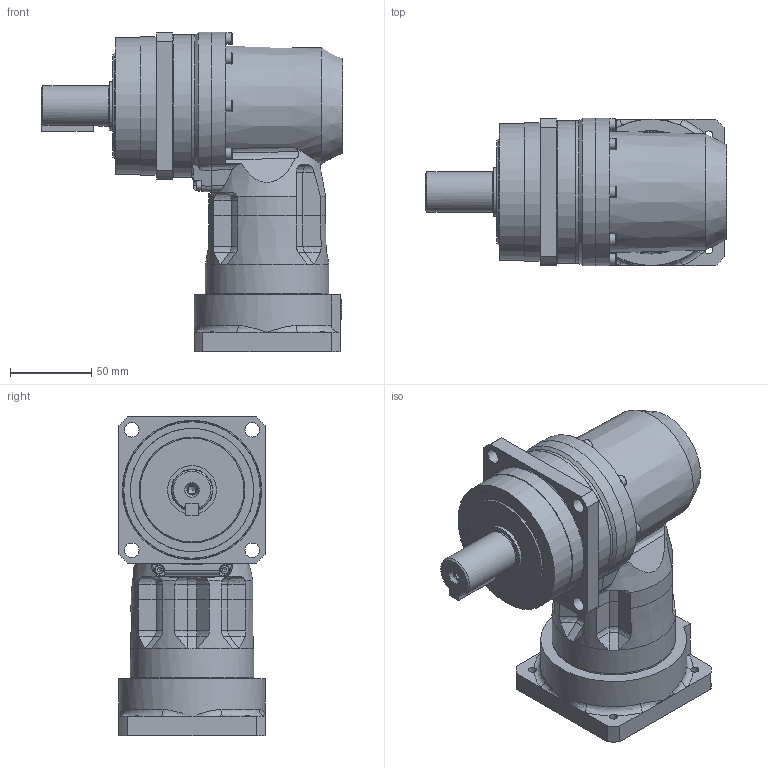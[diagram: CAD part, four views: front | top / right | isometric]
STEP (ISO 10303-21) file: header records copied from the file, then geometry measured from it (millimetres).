
FILE_DESCRIPTION(/* description */ ('ANFX-PK120W-2-0V'),/* implementation_level */ '2;1');
FILE_NAME(/* name */ 'C:\Users\ADMINI~1\AppData\Local\Temp\MM582199_ANFX-PK120W-2-0V.stp',/* time_stamp */ '2018-07-11T08:19:35+02:00',/* author */ ('Max'),/* organization */ (''),/* preprocessor_version */ 'ST-DEVELOPER v17',/* originating_system */ 'Autodesk Inventor 2018',/* authorisation */ '');
FILE_SCHEMA (('AUTOMOTIVE_DESIGN { 1 0 10303 214 3 1 1 }'));
Length unit declared in the file: millimetre
Products named in the file (27): MM581710; MMBG0004105; MMCM057LG; MMAF787LG; M204639; M204639-1; M204639-2; M204639-3; M204639-4; MMAP6499G; 202471; M530A30508---G; 211458; 205792; 200409; MMBG0004078; MMCL445LG; MMCM226LG; MAX4840G; MAW8381G; M202625; MMBG0004116; MMAF790LG; 203366; MMCH633LG; MAW8386G; 200458
Assembly tree (68 placements, depth 4):
  MM581710
    MMBG0004105
      MMCM057LG
      MMAF787LG
      M204639
        M204639-1
        M204639-2
        M204639-3  x2
        M204639-4  x12
      MMAP6499G
      202471
      M530A30508---G
      211458  x2
      205792  x8
      200409  x7
    MMBG0004078
      MMCL445LG
      MMCM226LG
      MAX4840G
      MAW8381G
      M202625
    MMBG0004116
      MMAF790LG
      203366  x10
    MMCH633LG
    MAW8386G
    200458  x8
Bounding box: 185.5 x 90.93 x 196.54 mm (x, y, z)
Volume: 747259.9 mm3; surface area: 263678.5 mm2
Topology: 106 solids, 106 shells, 1178 faces, 3258 edges, 2276 vertices
Faces by surface type: plane 560, cylinder 290, cone 138, torus 78, bspline 59, sphere 53
Full cylindrical faces by diameter (mm): 2 x1, 2.459 x10, 3 x10, 3.242 x16, 3.4 x10, 4 x16, 4.134 x8, 4.5 x16, 4.917 x5, 5 x8, 5.5 x18, 6.2 x1, 6.5 x8, 7 x16, 8.5 x8, 8.566 x2, 9 x4, 9.8 x1, 10 x1, 10.2 x1, 10.4 x1, 12 x1, 14 x1, 15 x2, 16.5 x1, 24 x1, 25 x1, 28 x1, 28.6 x1, 29 x1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
Entity records: 26507 total; most frequent: CARTESIAN_POINT 6094, DIRECTION 4339, ORIENTED_EDGE 3836, EDGE_CURVE 1918, AXIS2_PLACEMENT_3D 1835, VERTEX_POINT 1419, CIRCLE 1040, EDGE_LOOP 947
